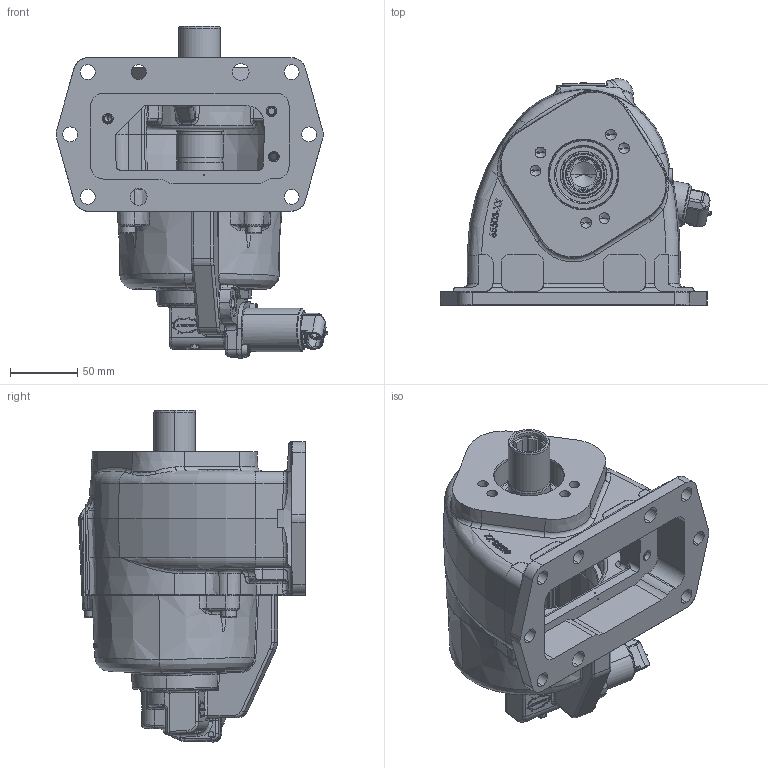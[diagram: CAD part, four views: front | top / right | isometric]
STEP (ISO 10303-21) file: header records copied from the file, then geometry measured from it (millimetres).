
FILE_DESCRIPTION (( 'STEP AP203' ), '1' );
FILE_NAME ('F20-F1312-XX5UUXX.STEP', '2021-10-11T20:36:28', ( '' ), ( '' ), 'SwSTEP 2.0', 'SolidWorks 2021', '' );
FILE_SCHEMA (( 'CONFIG_CONTROL_DESIGN' ));
Length unit declared in the file: inch
Products named in the file (10): 19T65396; 01T65627; 19T62950; F20-F1312-XX5UUXX; 06T65652; 35T43600; 15T64932; 25T65492; 35M35821M; 36T62352
Assembly tree (13 placements, depth 2):
  F20-F1312-XX5UUXX
    36T62352
    35M35821M  x2
    19T62950  x2
    35T43600
    01T65627
    06T65652
    15T64932
    19T65396  x3
    25T65492
Bounding box: 202.5 x 168.88 x 247.44 mm (x, y, z)
Volume: 1368518.4 mm3; surface area: 331593.1 mm2
Topology: 18 solids, 18 shells, 3204 faces, 8242 edges, 5126 vertices
Faces by surface type: bspline 1024, plane 896, cylinder 695, cone 346, torus 215, sphere 28
Entity records: 144587 total; most frequent: CARTESIAN_POINT 76283, ORIENTED_EDGE 15932, DIRECTION 10999, EDGE_CURVE 7966, VERTEX_POINT 5019, AXIS2_PLACEMENT_3D 4098, EDGE_LOOP 3389, ADVANCED_FACE 3120
